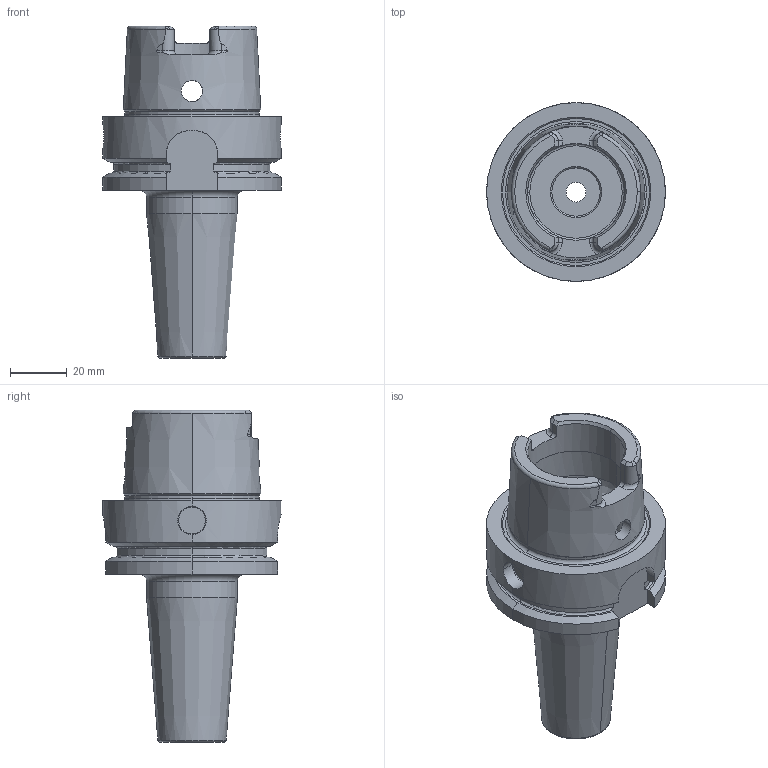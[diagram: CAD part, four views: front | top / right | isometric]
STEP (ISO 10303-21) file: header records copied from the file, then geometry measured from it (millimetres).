
FILE_DESCRIPTION (( 'STEP AP214' ), '1' );
FILE_NAME ('RHSK63ASF0375335.STEP', '2019-02-28T20:05:20', ( '' ), ( '' ), 'SwSTEP 2.0', 'SolidWorks 2019', '' );
FILE_SCHEMA (( 'AUTOMOTIVE_DESIGN' ));
Length unit declared in the file: inch
Products named in the file (2): RHSK63ASF0375335
Bounding box: 62.94 x 62.94 x 116.9 mm (x, y, z)
Volume: 114754.4 mm3; surface area: 29119.1 mm2
Topology: 1 solids, 1 shells, 167 faces, 420 edges, 258 vertices
Faces by surface type: cylinder 52, plane 49, cone 37, torus 29
Entity records: 7977 total; most frequent: CARTESIAN_POINT 1787, DIRECTION 847, ORIENTED_EDGE 840, EDGE_CURVE 420, AXIS2_PLACEMENT_3D 346, VERTEX_POINT 258, CIRCLE 177, EDGE_LOOP 176
